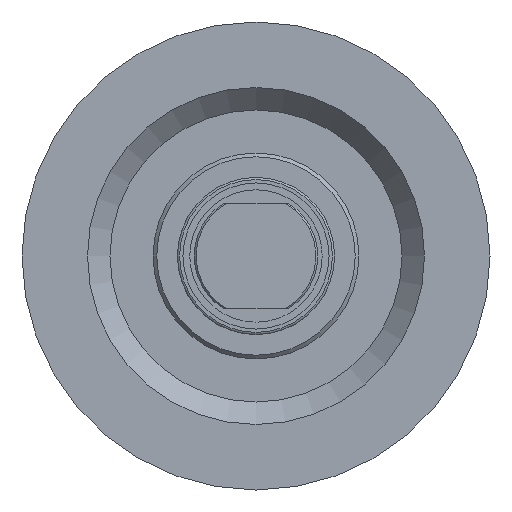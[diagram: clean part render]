
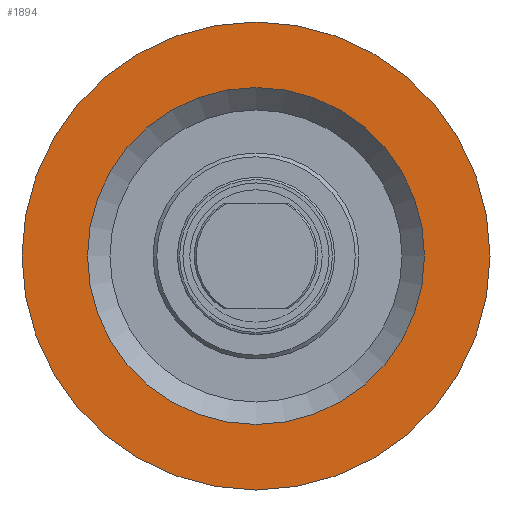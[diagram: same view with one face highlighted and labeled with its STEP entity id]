
A CAD part, left-side view. The second image highlights one B-rep face of the part: STEP entity #1894.
In plain terms, the highlighted planar face has unit normal (-1, 0, 0).
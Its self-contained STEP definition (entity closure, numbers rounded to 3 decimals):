
#345=FACE_BOUND('',#520,.T.);
#403=FACE_OUTER_BOUND('',#519,.T.);
#519=EDGE_LOOP('',(#1403,#1404));
#520=EDGE_LOOP('',(#1405,#1406));
#679=CIRCLE('',#2289,62.5);
#680=CIRCLE('',#2290,62.5);
#698=CIRCLE('',#2318,45.);
#699=CIRCLE('',#2319,45.);
#841=VERTEX_POINT('',#3279);
#842=VERTEX_POINT('',#3281);
#860=VERTEX_POINT('',#3334);
#861=VERTEX_POINT('',#3336);
#1055=EDGE_CURVE('',#841,#842,#679,.T.);
#1056=EDGE_CURVE('',#842,#841,#680,.T.);
#1081=EDGE_CURVE('',#861,#860,#698,.T.);
#1082=EDGE_CURVE('',#860,#861,#699,.T.);
#1403=ORIENTED_EDGE('',*,*,#1056,.F.);
#1404=ORIENTED_EDGE('',*,*,#1055,.F.);
#1405=ORIENTED_EDGE('',*,*,#1081,.T.);
#1406=ORIENTED_EDGE('',*,*,#1082,.T.);
#1842=PLANE('',#2320);
#1894=ADVANCED_FACE('',(#403,#345),#1842,.T.);
#2289=AXIS2_PLACEMENT_3D('',#3282,#2636,#2637);
#2290=AXIS2_PLACEMENT_3D('',#3283,#2638,#2639);
#2318=AXIS2_PLACEMENT_3D('',#3337,#2701,#2702);
#2319=AXIS2_PLACEMENT_3D('',#3338,#2703,#2704);
#2320=AXIS2_PLACEMENT_3D('',#3339,#2705,#2706);
#2636=DIRECTION('center_axis',(1.,0.,0.));
#2637=DIRECTION('ref_axis',(0.,0.,-1.));
#2638=DIRECTION('center_axis',(1.,0.,0.));
#2639=DIRECTION('ref_axis',(0.,0.,-1.));
#2701=DIRECTION('center_axis',(1.,0.,0.));
#2702=DIRECTION('ref_axis',(0.,0.,-1.));
#2703=DIRECTION('center_axis',(1.,0.,0.));
#2704=DIRECTION('ref_axis',(0.,0.,-1.));
#2705=DIRECTION('center_axis',(-1.,0.,0.));
#2706=DIRECTION('ref_axis',(0.,0.,1.));
#3279=CARTESIAN_POINT('',(-11.,-62.5,0.));
#3281=CARTESIAN_POINT('',(-11.,62.5,0.));
#3282=CARTESIAN_POINT('Origin',(-11.,0.,0.));
#3283=CARTESIAN_POINT('Origin',(-11.,0.,0.));
#3334=CARTESIAN_POINT('',(-11.,-45.,0.));
#3336=CARTESIAN_POINT('',(-11.,45.,0.));
#3337=CARTESIAN_POINT('Origin',(-11.,0.,0.));
#3338=CARTESIAN_POINT('Origin',(-11.,0.,0.));
#3339=CARTESIAN_POINT('Origin',(-11.,62.5,0.));
